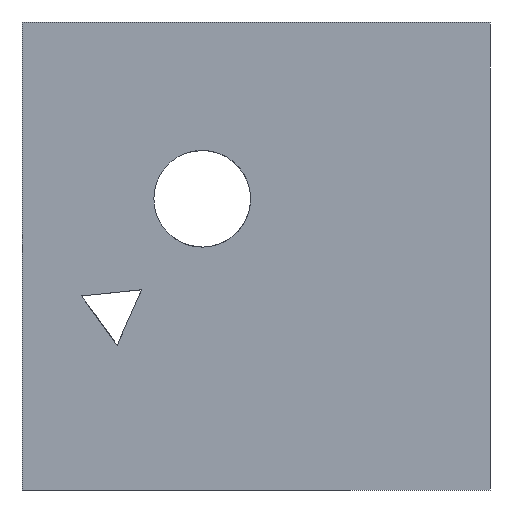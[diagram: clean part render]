
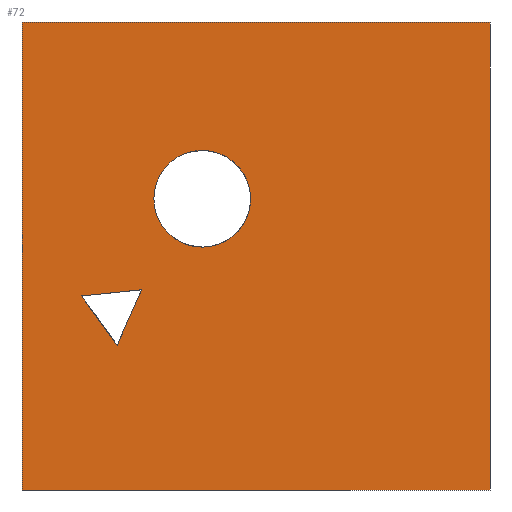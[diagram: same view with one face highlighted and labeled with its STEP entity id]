
A CAD part, front view. The second image highlights one B-rep face of the part: STEP entity #72.
In plain terms, the highlighted planar face has unit normal (0, -1, 0).
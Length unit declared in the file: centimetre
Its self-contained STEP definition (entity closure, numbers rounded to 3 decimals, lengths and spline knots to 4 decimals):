
#23 = DIRECTION ( 'NONE',  ( 1., 0., 0. ) ) ;
#38 = DIRECTION ( 'NONE',  ( -0.408, 0., -0.913 ) ) ;
#50 = EDGE_CURVE ( 'NONE', #1483, #872, #1406, .T. ) ;
#72 = ADVANCED_FACE ( 'NONE', ( #1444, #830, #1463 ), #326, .F. ) ;
#82 = AXIS2_PLACEMENT_3D ( 'NONE', #958, #1487, #819 ) ;
#197 = AXIS2_PLACEMENT_3D ( 'NONE', #987, #809, #1937 ) ;
#236 = VECTOR ( 'NONE', #1384, 100. ) ;
#247 = CARTESIAN_POINT ( 'NONE',  ( 256.0476, 0., 427.9089 ) ) ;
#270 = ORIENTED_EDGE ( 'NONE', *, *, #50, .F. ) ;
#301 = VERTEX_POINT ( 'NONE', #840 ) ;
#326 = PLANE ( 'NONE',  #82 ) ;
#330 = CARTESIAN_POINT ( 'NONE',  ( 127.2313, 0., 414.5462 ) ) ;
#336 = LINE ( 'NONE', #347, #1618 ) ;
#347 = CARTESIAN_POINT ( 'NONE',  ( 0., 0., 0. ) ) ;
#353 = VERTEX_POINT ( 'NONE', #998 ) ;
#434 = VECTOR ( 'NONE', #1008, 100. ) ;
#438 = EDGE_CURVE ( 'NONE', #836, #353, #660, .T. ) ;
#495 = DIRECTION ( 'NONE',  ( 0., 0., -1. ) ) ;
#497 = CARTESIAN_POINT ( 'NONE',  ( 0., 0., 1000. ) ) ;
#533 = CARTESIAN_POINT ( 'NONE',  ( 0., 0., 1000. ) ) ;
#534 = DIRECTION ( 'NONE',  ( 0., 0., -1. ) ) ;
#543 = VECTOR ( 'NONE', #495, 100. ) ;
#597 = LINE ( 'NONE', #831, #1032 ) ;
#627 = DIRECTION ( 'NONE',  ( 1., 0., 0. ) ) ;
#628 = VERTEX_POINT ( 'NONE', #1885 ) ;
#660 = LINE ( 'NONE', #497, #1000 ) ;
#713 = VERTEX_POINT ( 'NONE', #330 ) ;
#730 = LINE ( 'NONE', #1900, #236 ) ;
#738 = EDGE_CURVE ( 'NONE', #836, #900, #805, .T. ) ;
#805 = LINE ( 'NONE', #533, #543 ) ;
#809 = DIRECTION ( 'NONE',  ( 0., -1., 0. ) ) ;
#819 = DIRECTION ( 'NONE',  ( 0., 0., 1. ) ) ;
#830 = FACE_BOUND ( 'NONE', #1815, .T. ) ;
#831 = CARTESIAN_POINT ( 'NONE',  ( 1000., 0., 1000. ) ) ;
#836 = VERTEX_POINT ( 'NONE', #1027 ) ;
#840 = CARTESIAN_POINT ( 'NONE',  ( 1000., 0., 0. ) ) ;
#856 = CARTESIAN_POINT ( 'NONE',  ( 385.0637, 0., 725.5478 ) ) ;
#872 = VERTEX_POINT ( 'NONE', #856 ) ;
#875 = ORIENTED_EDGE ( 'NONE', *, *, #1442, .T. ) ;
#883 = ORIENTED_EDGE ( 'NONE', *, *, #1779, .F. ) ;
#900 = VERTEX_POINT ( 'NONE', #1186 ) ;
#958 = CARTESIAN_POINT ( 'NONE',  ( 0., 0., 1000. ) ) ;
#967 = VECTOR ( 'NONE', #38, 100. ) ;
#976 = CARTESIAN_POINT ( 'NONE',  ( 127.2313, 0., 414.5462 ) ) ;
#987 = CARTESIAN_POINT ( 'NONE',  ( 385.0637, 0., 622.2342 ) ) ;
#998 = CARTESIAN_POINT ( 'NONE',  ( 1000., 0., 1000. ) ) ;
#1000 = VECTOR ( 'NONE', #627, 100. ) ;
#1008 = DIRECTION ( 'NONE',  ( -0.587, 0., 0.81 ) ) ;
#1027 = CARTESIAN_POINT ( 'NONE',  ( 0., 0., 1000. ) ) ;
#1032 = VECTOR ( 'NONE', #1075, 100. ) ;
#1075 = DIRECTION ( 'NONE',  ( 0., 0., -1. ) ) ;
#1186 = CARTESIAN_POINT ( 'NONE',  ( 0., 0., 0. ) ) ;
#1199 = EDGE_CURVE ( 'NONE', #900, #301, #336, .T. ) ;
#1222 = ORIENTED_EDGE ( 'NONE', *, *, #2055, .F. ) ;
#1270 = AXIS2_PLACEMENT_3D ( 'NONE', #1819, #1330, #534 ) ;
#1277 = VERTEX_POINT ( 'NONE', #247 ) ;
#1330 = DIRECTION ( 'NONE',  ( 0., -1., 0. ) ) ;
#1346 = EDGE_CURVE ( 'NONE', #1277, #628, #1489, .T. ) ;
#1375 = CARTESIAN_POINT ( 'NONE',  ( 385.0637, 0., 518.9206 ) ) ;
#1384 = DIRECTION ( 'NONE',  ( 0.995, 0., 0.103 ) ) ;
#1406 = CIRCLE ( 'NONE', #197, 103.3136 ) ;
#1442 = EDGE_CURVE ( 'NONE', #713, #1277, #730, .T. ) ;
#1444 = FACE_BOUND ( 'NONE', #1676, .T. ) ;
#1463 = FACE_OUTER_BOUND ( 'NONE', #1769, .T. ) ;
#1483 = VERTEX_POINT ( 'NONE', #1375 ) ;
#1487 = DIRECTION ( 'NONE',  ( 0., 1., 0. ) ) ;
#1489 = LINE ( 'NONE', #1669, #967 ) ;
#1558 = ORIENTED_EDGE ( 'NONE', *, *, #738, .T. ) ;
#1577 = CIRCLE ( 'NONE', #1270, 103.3136 ) ;
#1603 = ORIENTED_EDGE ( 'NONE', *, *, #438, .F. ) ;
#1618 = VECTOR ( 'NONE', #23, 100. ) ;
#1669 = CARTESIAN_POINT ( 'NONE',  ( 203.212, 0., 309.6694 ) ) ;
#1676 = EDGE_LOOP ( 'NONE', ( #270, #1222 ) ) ;
#1769 = EDGE_LOOP ( 'NONE', ( #1884, #883, #1603, #1558 ) ) ;
#1779 = EDGE_CURVE ( 'NONE', #353, #301, #597, .T. ) ;
#1815 = EDGE_LOOP ( 'NONE', ( #875, #1982, #1994 ) ) ;
#1819 = CARTESIAN_POINT ( 'NONE',  ( 385.0637, 0., 622.2342 ) ) ;
#1884 = ORIENTED_EDGE ( 'NONE', *, *, #1199, .T. ) ;
#1885 = CARTESIAN_POINT ( 'NONE',  ( 203.212, 0., 309.6694 ) ) ;
#1900 = CARTESIAN_POINT ( 'NONE',  ( 256.0476, 0., 427.9089 ) ) ;
#1937 = DIRECTION ( 'NONE',  ( 0., 0., -1. ) ) ;
#1957 = LINE ( 'NONE', #976, #434 ) ;
#1980 = EDGE_CURVE ( 'NONE', #628, #713, #1957, .T. ) ;
#1982 = ORIENTED_EDGE ( 'NONE', *, *, #1346, .T. ) ;
#1994 = ORIENTED_EDGE ( 'NONE', *, *, #1980, .T. ) ;
#2055 = EDGE_CURVE ( 'NONE', #872, #1483, #1577, .T. ) ;
